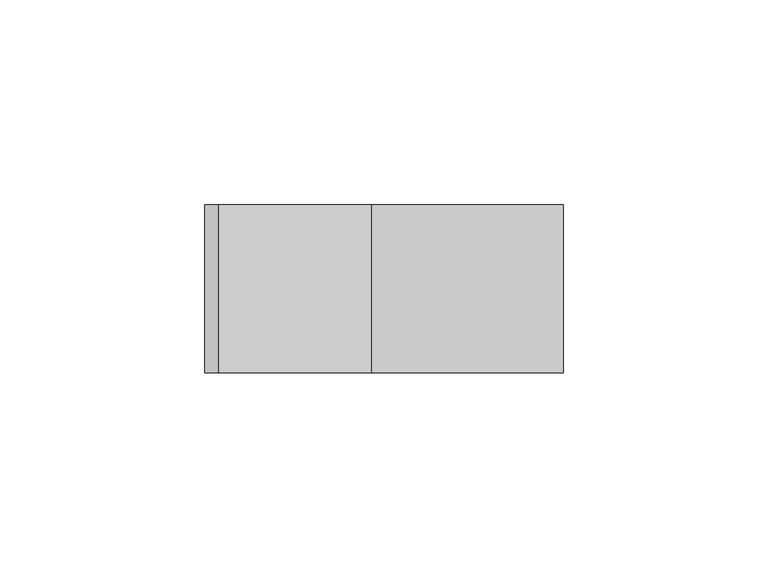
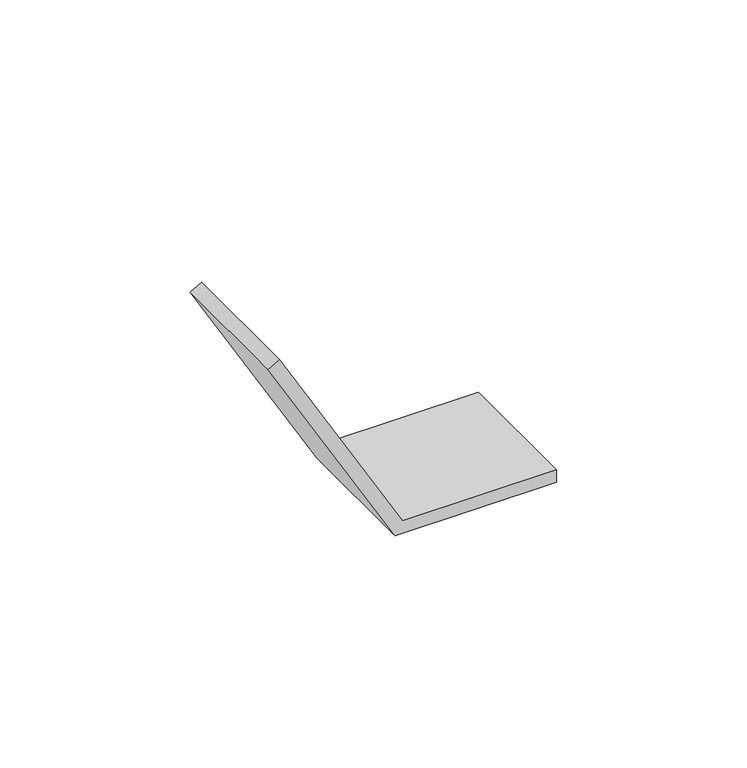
"""IFC4 building model written with IfcOpenShell, lengths in millimetres: proxy geometry, 4182G_Accessory-Basorfix : Basorfix 4182G GC70."""

from ifc_helpers import new_model, si_unit, frame, origin, place, context, project, spatial, polyline, outline, extrude, source, transform, mapped, element, save


def generic_models_0819af8c(model_context):
    return source(origin(), model_context, "Body", "SweptSolid", [
        extrude(outline(polyline([(0.0, 0.0), (0.0, 49.0), (4.0, 49.0), (4.0, 2.3094011), (68.6839561, -35.0358984), (66.6839561, -38.5), (0.0, 0.0)])), frame((0.0, -20.5, 0.0), z_axis=(0.0, 1.0, 0.0), x_axis=(0.0, 0.0, 1.0)), (0.0, 0.0, 1.0), 41.0),
    ])


if __name__ == "__main__":
    model = new_model("IFC4")
    model_context = context("Model", 3, world=origin())
    ifc_project = project(units=[si_unit("LENGTHUNIT", "METRE", prefix="MILLI")], contexts=[model_context])
    site = spatial("IfcSite", under=ifc_project)
    building = spatial("IfcBuilding", under=site)
    placement = place(None, origin())
    generic_models_shape = generic_models_0819af8c(model_context)
    element("IfcBuildingElementProxy", 1, Name="4182G_Accessory-Basorfix : Basorfix 4182G GC70", ObjectType="4182G_Accessory-Basorfix : Basorfix 4182G GC70", at=placement, inside=building, context=model_context, shape_type="MappedRepresentation", body=[
        mapped(generic_models_shape, transform((0.0, 0.0, 0.0), x_axis=(1.0, 0.0, 0.0), y_axis=(0.0, 1.0, 0.0), z_axis=(0.0, 0.0, 1.0))),
    ])
    save(model, "model.ifc")
